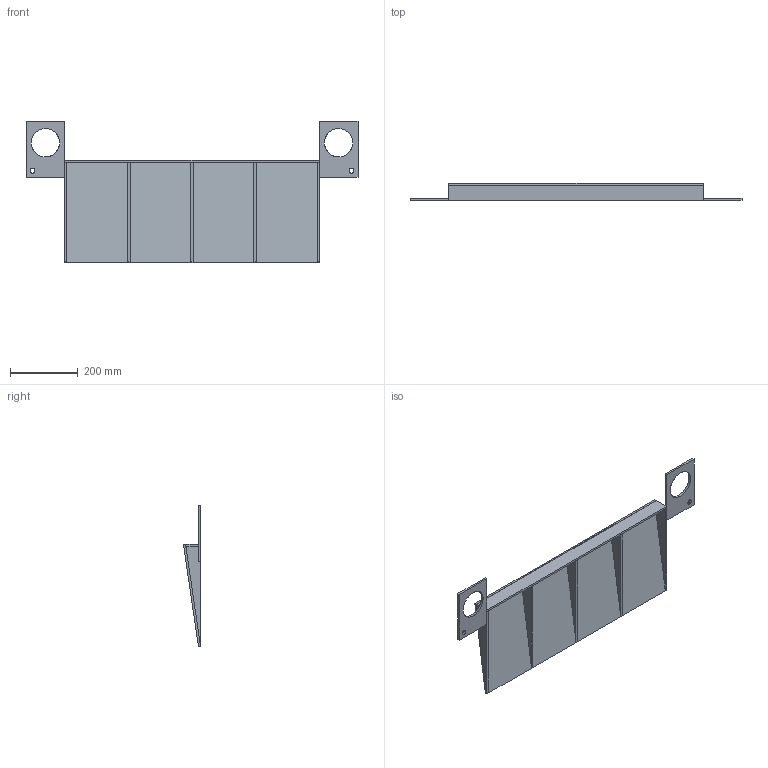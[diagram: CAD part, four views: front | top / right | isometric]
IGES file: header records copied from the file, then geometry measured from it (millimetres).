
Start section: SolidWorks IGES file using analytic representation for surfaces
Global section: file name: C:\0_Work\SolidWorks\HI DS Drum Scales\Drum Scale Ramp_HIDSR-3012 Series.IGS; native system: SolidWorks 2023; preprocessor: SolidWorks 2023; author: vach01; date: 240514.084819; units: inch
Bounding box: 977.9 x 50.53 x 416.79 mm (x, y, z)
Surface area: 690968.5 mm2 (no closed solid volume)
Topology: 0 solids, 0 shells, 57 faces, 602 edges, 602 vertices
Faces by surface type: bspline 49, revolution 8
